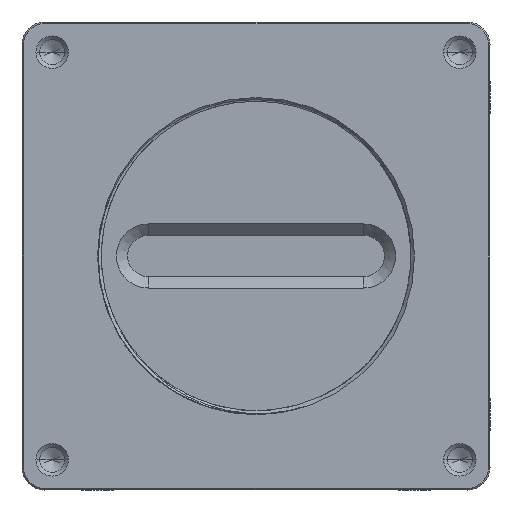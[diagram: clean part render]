
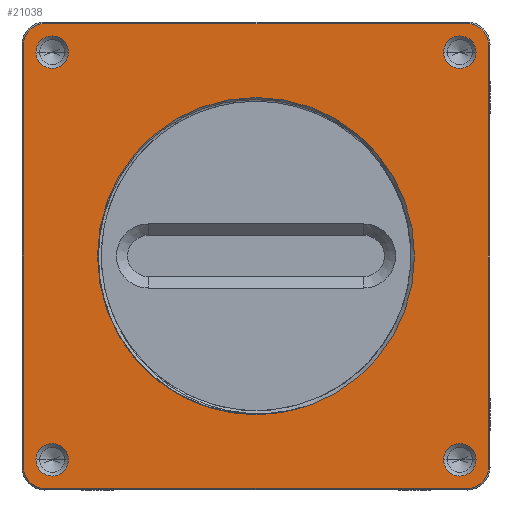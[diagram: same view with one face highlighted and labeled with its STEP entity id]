
A CAD part, front view. The second image highlights one B-rep face of the part: STEP entity #21038.
In plain terms, the highlighted planar face has unit normal (0, -1, 0).
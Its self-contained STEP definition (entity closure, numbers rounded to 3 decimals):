
#392=CARTESIAN_POINT('',(-28.,-35.,28.));
#393=DIRECTION('',(0.,1.,0.));
#394=DIRECTION('',(-1.,0.,0.));
#395=AXIS2_PLACEMENT_3D('',#392,#393,#394);
#400=DIRECTION('',(1.,0.,0.));
#401=VECTOR('',#400,56.);
#402=CARTESIAN_POINT('',(-28.,-35.,30.8));
#403=LINE('',#402,#401);
#407=CARTESIAN_POINT('',(28.,-35.,28.));
#408=DIRECTION('',(0.,1.,0.));
#409=DIRECTION('',(0.,0.,1.));
#410=AXIS2_PLACEMENT_3D('',#407,#408,#409);
#415=DIRECTION('',(0.,0.,-1.));
#416=VECTOR('',#415,56.);
#417=CARTESIAN_POINT('',(30.8,-35.,28.));
#418=LINE('',#417,#416);
#422=CARTESIAN_POINT('',(28.,-35.,-28.));
#423=DIRECTION('',(0.,1.,0.));
#424=DIRECTION('',(1.,0.,0.));
#425=AXIS2_PLACEMENT_3D('',#422,#423,#424);
#430=DIRECTION('',(-1.,0.,0.));
#431=VECTOR('',#430,56.);
#432=CARTESIAN_POINT('',(28.,-35.,-30.8));
#433=LINE('',#432,#431);
#437=CARTESIAN_POINT('',(-28.,-35.,-28.));
#438=DIRECTION('',(0.,1.,0.));
#439=DIRECTION('',(0.,0.,-1.));
#440=AXIS2_PLACEMENT_3D('',#437,#438,#439);
#445=DIRECTION('',(0.,0.,1.));
#446=VECTOR('',#445,56.);
#447=CARTESIAN_POINT('',(-30.8,-35.,
-28.));
#448=LINE('',#447,#446);
#452=CARTESIAN_POINT('',(-27.,-35.,27.));
#453=DIRECTION('',(0.,1.,0.));
#454=DIRECTION('',(-1.,0.,0.));
#455=AXIS2_PLACEMENT_3D('',#452,#453,#454);
#460=CARTESIAN_POINT('',(-27.,-35.,27.));
#461=DIRECTION('',(0.,1.,0.));
#462=DIRECTION('',(1.,0.,0.));
#463=AXIS2_PLACEMENT_3D('',#460,#461,#462);
#468=CARTESIAN_POINT('',(-27.,-35.,-27.));
#469=DIRECTION('',(0.,1.,0.));
#470=DIRECTION('',(1.,0.,0.));
#471=AXIS2_PLACEMENT_3D('',#468,#469,#470);
#476=CARTESIAN_POINT('',(-27.,-35.,-27.));
#477=DIRECTION('',(0.,1.,0.));
#478=DIRECTION('',(-1.,0.,0.));
#479=AXIS2_PLACEMENT_3D('',#476,#477,#478);
#484=CARTESIAN_POINT('',(27.,-35.,-27.));
#485=DIRECTION('',(0.,1.,0.));
#486=DIRECTION('',(1.,0.,0.));
#487=AXIS2_PLACEMENT_3D('',#484,#485,#486);
#492=CARTESIAN_POINT('',(27.,-35.,-27.));
#493=DIRECTION('',(0.,1.,0.));
#494=DIRECTION('',(-1.,0.,0.));
#495=AXIS2_PLACEMENT_3D('',#492,#493,#494);
#500=CARTESIAN_POINT('',(27.,-35.,27.));
#501=DIRECTION('',(0.,1.,0.));
#502=DIRECTION('',(1.,0.,0.));
#503=AXIS2_PLACEMENT_3D('',#500,#501,#502);
#508=CARTESIAN_POINT('',(27.,-35.,27.));
#509=DIRECTION('',(0.,1.,0.));
#510=DIRECTION('',(-1.,0.,0.));
#511=AXIS2_PLACEMENT_3D('',#508,#509,#510);
#516=CARTESIAN_POINT('',(0.,-35.,0.));
#517=DIRECTION('',(0.,1.,0.));
#518=DIRECTION('',(0.,0.,-1.));
#519=AXIS2_PLACEMENT_3D('',#516,#517,#518);
#524=CARTESIAN_POINT('',(0.,-35.,0.));
#525=DIRECTION('',(0.,1.,0.));
#526=DIRECTION('',(0.,0.,1.));
#527=AXIS2_PLACEMENT_3D('',#524,#525,#526);
#18120=CARTESIAN_POINT('',(-29.15,-35.,27.));
#18121=CARTESIAN_POINT('',(-24.85,-35.,27.));
#18122=VERTEX_POINT('',#18120);
#18123=VERTEX_POINT('',#18121);
#18128=CARTESIAN_POINT('',(-24.85,-35.,-27.));
#18129=CARTESIAN_POINT('',(-29.15,-35.,-27.));
#18130=VERTEX_POINT('',#18128);
#18131=VERTEX_POINT('',#18129);
#18136=CARTESIAN_POINT('',(29.15,-35.,-27.));
#18137=CARTESIAN_POINT('',(24.85,-35.,-27.));
#18138=VERTEX_POINT('',#18136);
#18139=VERTEX_POINT('',#18137);
#18144=CARTESIAN_POINT('',(29.15,-35.,27.));
#18145=CARTESIAN_POINT('',(24.85,-35.,27.));
#18146=VERTEX_POINT('',#18144);
#18147=VERTEX_POINT('',#18145);
#18371=CARTESIAN_POINT('',(0.,-35.,-21.));
#18372=CARTESIAN_POINT('',(0.,-35.,21.));
#18373=VERTEX_POINT('',#18371);
#18374=VERTEX_POINT('',#18372);
#18379=CARTESIAN_POINT('',(-30.8,-35.,28.));
#18380=CARTESIAN_POINT('',(-28.,-35.,30.8));
#18381=VERTEX_POINT('',#18379);
#18382=VERTEX_POINT('',#18380);
#18385=CARTESIAN_POINT('',(28.,-35.,
30.8));
#18386=VERTEX_POINT('',#18385);
#18389=CARTESIAN_POINT('',(30.8,-35.,28.));
#18390=VERTEX_POINT('',#18389);
#18393=CARTESIAN_POINT('',(30.8,-35.,
-28.));
#18394=VERTEX_POINT('',#18393);
#18397=CARTESIAN_POINT('',(28.,-35.,-30.8));
#18398=VERTEX_POINT('',#18397);
#18401=CARTESIAN_POINT('',(-28.,-35.,
-30.8));
#18402=VERTEX_POINT('',#18401);
#18405=CARTESIAN_POINT('',(-30.8,-35.,-28.));
#18406=VERTEX_POINT('',#18405);
#20989=CARTESIAN_POINT('',(31.,-35.,31.));
#20990=DIRECTION('',(0.,-1.,0.));
#20991=DIRECTION('',(0.,0.,-1.));
#20992=AXIS2_PLACEMENT_3D('',#20989,#20990,#20991);
#20993=PLANE('',#20992);
#20995=ORIENTED_EDGE('',*,*,#20994,.T.);
#20996=ORIENTED_EDGE('',*,*,#20935,.T.);
#20997=ORIENTED_EDGE('',*,*,#20957,.T.);
#20998=ORIENTED_EDGE('',*,*,#20664,.T.);
#20999=ORIENTED_EDGE('',*,*,#20687,.T.);
#21001=ORIENTED_EDGE('',*,*,#21000,.T.);
#21003=ORIENTED_EDGE('',*,*,#21002,.T.);
#21005=ORIENTED_EDGE('',*,*,#21004,.T.);
#21006=EDGE_LOOP('',(#20995,#20996,#20997,#20998,#20999,#21001,#21003,#21005));
#21007=FACE_OUTER_BOUND('',#21006,.F.);
#21009=ORIENTED_EDGE('',*,*,#21008,.F.);
#21011=ORIENTED_EDGE('',*,*,#21010,.F.);
#21012=EDGE_LOOP('',(#21009,#21011));
#21013=FACE_BOUND('',#21012,.F.);
#21015=ORIENTED_EDGE('',*,*,#21014,.F.);
#21017=ORIENTED_EDGE('',*,*,#21016,.F.);
#21018=EDGE_LOOP('',(#21015,#21017));
#21019=FACE_BOUND('',#21018,.F.);
#21021=ORIENTED_EDGE('',*,*,#21020,.F.);
#21023=ORIENTED_EDGE('',*,*,#21022,.F.);
#21024=EDGE_LOOP('',(#21021,#21023));
#21025=FACE_BOUND('',#21024,.F.);
#21027=ORIENTED_EDGE('',*,*,#21026,.F.);
#21029=ORIENTED_EDGE('',*,*,#21028,.F.);
#21030=EDGE_LOOP('',(#21027,#21029));
#21031=FACE_BOUND('',#21030,.F.);
#21033=ORIENTED_EDGE('',*,*,#21032,.F.);
#21035=ORIENTED_EDGE('',*,*,#21034,.F.);
#21036=EDGE_LOOP('',(#21033,#21035));
#21037=FACE_BOUND('',#21036,.F.);
#21038=ADVANCED_FACE('',(#21007,#21013,#21019,#21025,#21031,#21037),#20993,.T.);
#396=CIRCLE('',#395,2.8);
#411=CIRCLE('',#410,2.8);
#426=CIRCLE('',#425,2.8);
#441=CIRCLE('',#440,2.8);
#456=CIRCLE('',#455,2.15);
#464=CIRCLE('',#463,2.15);
#472=CIRCLE('',#471,2.15);
#480=CIRCLE('',#479,2.15);
#488=CIRCLE('',#487,2.15);
#496=CIRCLE('',#495,2.15);
#504=CIRCLE('',#503,2.15);
#512=CIRCLE('',#511,2.15);
#520=CIRCLE('',#519,21.);
#528=CIRCLE('',#527,21.);
#20664=EDGE_CURVE('',#18390,#18394,#418,.T.);
#20687=EDGE_CURVE('',#18394,#18398,#426,.T.);
#20935=EDGE_CURVE('',#18382,#18386,#403,.T.);
#20957=EDGE_CURVE('',#18386,#18390,#411,.T.);
#20994=EDGE_CURVE('',#18381,#18382,#396,.T.);
#21000=EDGE_CURVE('',#18398,#18402,#433,.T.);
#21002=EDGE_CURVE('',#18402,#18406,#441,.T.);
#21004=EDGE_CURVE('',#18406,#18381,#448,.T.);
#21008=EDGE_CURVE('',#18122,#18123,#456,.T.);
#21010=EDGE_CURVE('',#18123,#18122,#464,.T.);
#21014=EDGE_CURVE('',#18130,#18131,#472,.T.);
#21016=EDGE_CURVE('',#18131,#18130,#480,.T.);
#21020=EDGE_CURVE('',#18138,#18139,#488,.T.);
#21022=EDGE_CURVE('',#18139,#18138,#496,.T.);
#21026=EDGE_CURVE('',#18146,#18147,#504,.T.);
#21028=EDGE_CURVE('',#18147,#18146,#512,.T.);
#21032=EDGE_CURVE('',#18373,#18374,#520,.T.);
#21034=EDGE_CURVE('',#18374,#18373,#528,.T.);
